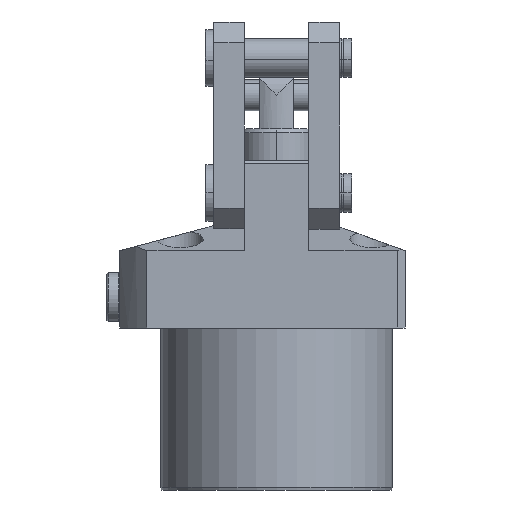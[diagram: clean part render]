
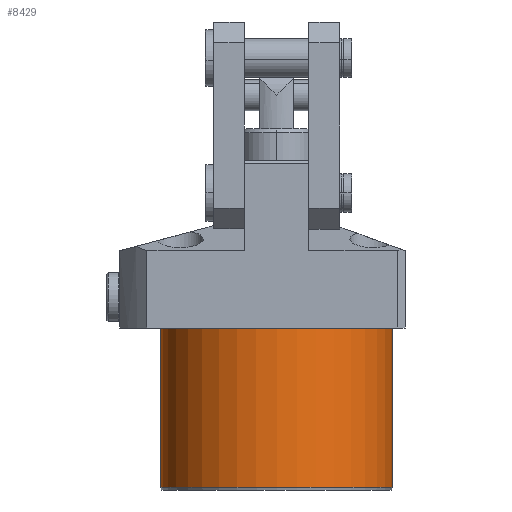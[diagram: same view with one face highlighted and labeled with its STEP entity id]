
A CAD part, front view. The second image highlights one B-rep face of the part: STEP entity #8429.
In plain terms, the highlighted cylindrical face has radius 45 mm (diameter 90 mm), a partial arc.
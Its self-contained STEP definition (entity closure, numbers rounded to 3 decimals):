
#173 = CARTESIAN_POINT ( 'NONE',  ( 0., 0., -62. ) ) ;
#300 = DIRECTION ( 'NONE',  ( 0., 0., 1. ) ) ;
#334 = DIRECTION ( 'NONE',  ( -1., 0., 0. ) ) ;
#1385 = ORIENTED_EDGE ( 'NONE', *, *, #6103, .T. ) ;
#2060 = EDGE_CURVE ( 'NONE', #12741, #15054, #14685, .T. ) ;
#2234 = CARTESIAN_POINT ( 'NONE',  ( 45., 0., -62. ) ) ;
#2255 = EDGE_CURVE ( 'NONE', #4161, #6629, #13429, .T. ) ;
#2498 = DIRECTION ( 'NONE',  ( 1., 0., 0. ) ) ;
#2847 = ORIENTED_EDGE ( 'NONE', *, *, #2255, .T. ) ;
#2904 = LINE ( 'NONE', #4853, #10048 ) ;
#3056 = LINE ( 'NONE', #16712, #14541 ) ;
#3308 = AXIS2_PLACEMENT_3D ( 'NONE', #13214, #9111, #2498 ) ;
#4161 = VERTEX_POINT ( 'NONE', #11650 ) ;
#4738 = AXIS2_PLACEMENT_3D ( 'NONE', #173, #300, #334 ) ;
#4853 = CARTESIAN_POINT ( 'NONE',  ( 45., 0., -63. ) ) ;
#5145 = EDGE_LOOP ( 'NONE', ( #13736, #14329, #1385, #2847 ) ) ;
#6103 = EDGE_CURVE ( 'NONE', #15054, #4161, #2904, .T. ) ;
#6629 = VERTEX_POINT ( 'NONE', #11434 ) ;
#7378 = DIRECTION ( 'NONE',  ( 0., 0., 1. ) ) ;
#8429 = ADVANCED_FACE ( 'NONE', ( #13961 ), #16263, .T. ) ;
#9111 = DIRECTION ( 'NONE',  ( 0., 0., 1. ) ) ;
#10048 = VECTOR ( 'NONE', #14170, 1000. ) ;
#10259 = EDGE_CURVE ( 'NONE', #12741, #6629, #3056, .T. ) ;
#11434 = CARTESIAN_POINT ( 'NONE',  ( -45., 0., 0. ) ) ;
#11650 = CARTESIAN_POINT ( 'NONE',  ( 45., 0., 0. ) ) ;
#11877 = AXIS2_PLACEMENT_3D ( 'NONE', #14931, #14927, #14911 ) ;
#12741 = VERTEX_POINT ( 'NONE', #17166 ) ;
#13214 = CARTESIAN_POINT ( 'NONE',  ( 0., 0., -63. ) ) ;
#13429 = CIRCLE ( 'NONE', #11877, 45. ) ;
#13736 = ORIENTED_EDGE ( 'NONE', *, *, #10259, .F. ) ;
#13961 = FACE_OUTER_BOUND ( 'NONE', #5145, .T. ) ;
#14170 = DIRECTION ( 'NONE',  ( 0., 0., 1. ) ) ;
#14329 = ORIENTED_EDGE ( 'NONE', *, *, #2060, .T. ) ;
#14541 = VECTOR ( 'NONE', #7378, 1000. ) ;
#14685 = CIRCLE ( 'NONE', #4738, 45. ) ;
#14911 = DIRECTION ( 'NONE',  ( 1., 0., 0. ) ) ;
#14927 = DIRECTION ( 'NONE',  ( 0., 0., -1. ) ) ;
#14931 = CARTESIAN_POINT ( 'NONE',  ( 0., 0., 0. ) ) ;
#15054 = VERTEX_POINT ( 'NONE', #2234 ) ;
#16263 = CYLINDRICAL_SURFACE ( 'NONE', #3308, 45. ) ;
#16712 = CARTESIAN_POINT ( 'NONE',  ( -45., 0., -63. ) ) ;
#17166 = CARTESIAN_POINT ( 'NONE',  ( -45., 0., -62. ) ) ;
